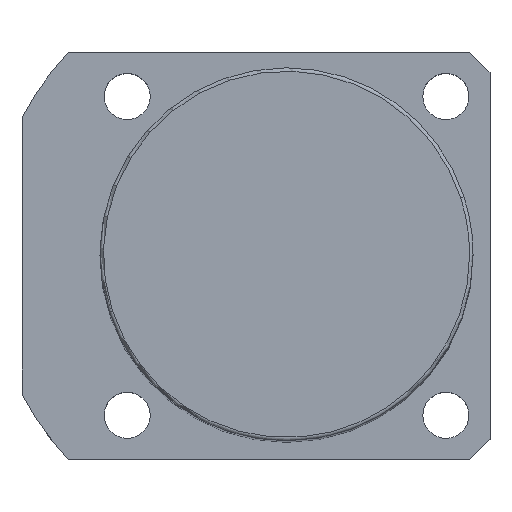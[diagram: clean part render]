
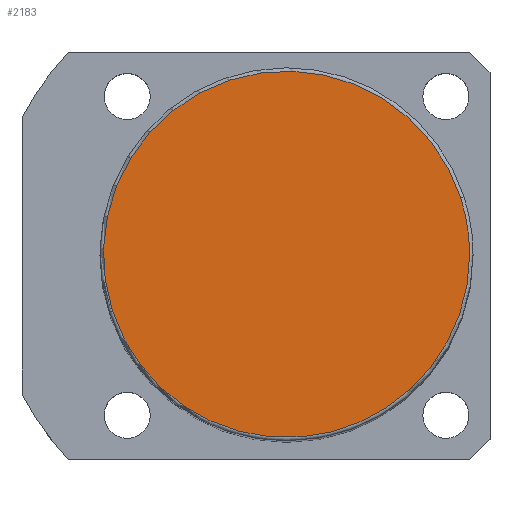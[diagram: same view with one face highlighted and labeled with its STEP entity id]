
A CAD part, top view. The second image highlights one B-rep face of the part: STEP entity #2183.
In plain terms, the highlighted planar face has unit normal (0, 0, 1).
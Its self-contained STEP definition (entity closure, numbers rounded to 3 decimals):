
#2149=CARTESIAN_POINT('',(27.0,0.0,141.0));
#2150=VERTEX_POINT('',#2149);
#2151=CARTESIAN_POINT('',(25.679,8.343,141.0));
#2152=VERTEX_POINT('',#2151);
#2153=CARTESIAN_POINT('',(0.0,0.0,141.0));
#2154=DIRECTION('',(0.0,0.0,1.0));
#2155=DIRECTION('',(1.0,0.0,0.0));
#2156=AXIS2_PLACEMENT_3D('',#2153,#2154,#2155);
#2157=CIRCLE('',#2156,27.0);
#2158=EDGE_CURVE('no 2169',#2150,#2152,#2157,.T.);
#2159=ORIENTED_EDGE('',*,*,#2158,.T.);
#2160=CARTESIAN_POINT('',(-25.679,-8.343,141.0));
#2161=VERTEX_POINT('',#2160);
#2162=CARTESIAN_POINT('',(0.0,0.0,141.0));
#2163=DIRECTION('',(0.0,0.0,1.0));
#2164=DIRECTION('',(1.0,0.0,0.0));
#2165=AXIS2_PLACEMENT_3D('',#2162,#2163,#2164);
#2166=CIRCLE('',#2165,27.0);
#2167=EDGE_CURVE('no 2175',#2152,#2161,#2166,.T.);
#2168=ORIENTED_EDGE('',*,*,#2167,.T.);
#2169=CARTESIAN_POINT('',(0.0,0.0,141.0));
#2170=DIRECTION('',(0.0,0.0,1.0));
#2171=DIRECTION('',(1.0,0.0,0.0));
#2172=AXIS2_PLACEMENT_3D('',#2169,#2170,#2171);
#2173=CIRCLE('',#2172,27.0);
#2174=EDGE_CURVE('no 2179',#2161,#2150,#2173,.T.);
#2175=ORIENTED_EDGE('',*,*,#2174,.T.);
#2176=EDGE_LOOP('',(#2159,#2168,#2175));
#2177=FACE_OUTER_BOUND('',#2176,.T.);
#2178=CARTESIAN_POINT('',(0.0,0.0,141.0));
#2179=DIRECTION('',(0.0,0.0,1.0));
#2180=DIRECTION('',(1.0,0.0,0.0));
#2181=AXIS2_PLACEMENT_3D('',#2178,#2179,#2180);
#2182=PLANE('',#2181);
#2183=ADVANCED_FACE('no 2160',(#2177),#2182,.T.);
